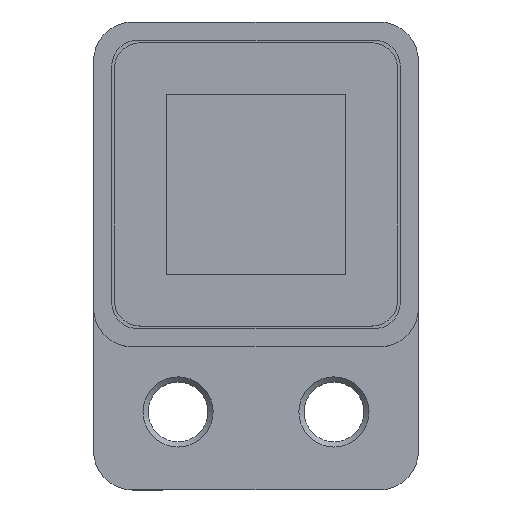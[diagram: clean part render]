
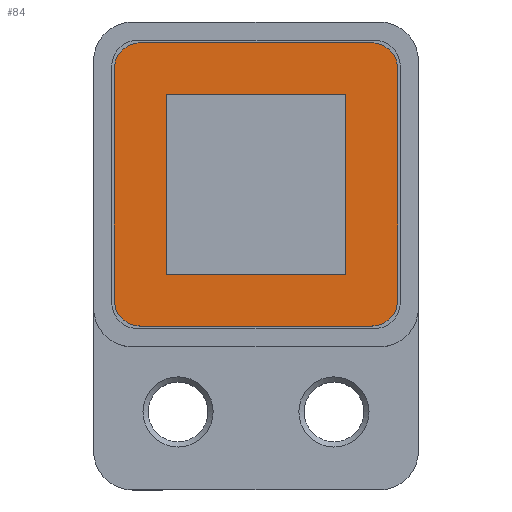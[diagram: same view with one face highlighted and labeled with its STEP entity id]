
A CAD part, top view. The second image highlights one B-rep face of the part: STEP entity #84.
In plain terms, the highlighted planar face has unit normal (0, 0, 1).
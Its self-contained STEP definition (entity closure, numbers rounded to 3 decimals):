
#84=ADVANCED_FACE('',(#148,#149),#125,.F.);
#125=PLANE('',#771);
#148=FACE_BOUND('',#168,.T.);
#149=FACE_BOUND('',#169,.T.);
#168=EDGE_LOOP('',(#254,#255,#256,#257,#258,#259,#260,#261));
#169=EDGE_LOOP('',(#262,#263,#264,#265));
#220=CIRCLE('',#767,1.);
#221=CIRCLE('',#768,1.);
#222=CIRCLE('',#769,1.);
#223=CIRCLE('',#770,1.);
#254=ORIENTED_EDGE('',*,*,#528,.F.);
#255=ORIENTED_EDGE('',*,*,#529,.T.);
#256=ORIENTED_EDGE('',*,*,#530,.F.);
#257=ORIENTED_EDGE('',*,*,#531,.T.);
#258=ORIENTED_EDGE('',*,*,#532,.F.);
#259=ORIENTED_EDGE('',*,*,#533,.T.);
#260=ORIENTED_EDGE('',*,*,#534,.F.);
#261=ORIENTED_EDGE('',*,*,#535,.T.);
#262=ORIENTED_EDGE('',*,*,#536,.F.);
#263=ORIENTED_EDGE('',*,*,#537,.F.);
#264=ORIENTED_EDGE('',*,*,#538,.F.);
#265=ORIENTED_EDGE('',*,*,#539,.F.);
#458=VERTEX_POINT('',#1064);
#459=VERTEX_POINT('',#1065);
#460=VERTEX_POINT('',#1067);
#461=VERTEX_POINT('',#1069);
#462=VERTEX_POINT('',#1071);
#463=VERTEX_POINT('',#1073);
#464=VERTEX_POINT('',#1075);
#465=VERTEX_POINT('',#1077);
#466=VERTEX_POINT('',#1080);
#467=VERTEX_POINT('',#1081);
#468=VERTEX_POINT('',#1083);
#469=VERTEX_POINT('',#1085);
#528=EDGE_CURVE('',#458,#459,#630,.T.);
#529=EDGE_CURVE('',#458,#460,#220,.T.);
#530=EDGE_CURVE('',#461,#460,#631,.T.);
#531=EDGE_CURVE('',#461,#462,#221,.T.);
#532=EDGE_CURVE('',#463,#462,#632,.T.);
#533=EDGE_CURVE('',#463,#464,#222,.T.);
#534=EDGE_CURVE('',#465,#464,#633,.T.);
#535=EDGE_CURVE('',#465,#459,#223,.T.);
#536=EDGE_CURVE('',#466,#467,#634,.T.);
#537=EDGE_CURVE('',#468,#466,#635,.T.);
#538=EDGE_CURVE('',#469,#468,#636,.T.);
#539=EDGE_CURVE('',#467,#469,#637,.T.);
#630=LINE('',#1063,#698);
#631=LINE('',#1068,#699);
#632=LINE('',#1072,#700);
#633=LINE('',#1076,#701);
#634=LINE('',#1079,#702);
#635=LINE('',#1082,#703);
#636=LINE('',#1084,#704);
#637=LINE('',#1086,#705);
#698=VECTOR('',#844,1.);
#699=VECTOR('',#847,1.);
#700=VECTOR('',#850,1.);
#701=VECTOR('',#853,1.);
#702=VECTOR('',#856,1.);
#703=VECTOR('',#857,1.);
#704=VECTOR('',#858,1.);
#705=VECTOR('',#859,1.);
#767=AXIS2_PLACEMENT_3D('',#1066,#845,#846);
#768=AXIS2_PLACEMENT_3D('',#1070,#848,#849);
#769=AXIS2_PLACEMENT_3D('',#1074,#851,#852);
#770=AXIS2_PLACEMENT_3D('',#1078,#854,#855);
#771=AXIS2_PLACEMENT_3D('',#1087,#860,#861);
#844=DIRECTION('',(1.,0.,0.));
#845=DIRECTION('',(0.,0.,1.));
#846=DIRECTION('',(0.,1.,0.));
#847=DIRECTION('',(0.,1.,0.));
#848=DIRECTION('',(0.,0.,1.));
#849=DIRECTION('',(0.,1.,0.));
#850=DIRECTION('',(-1.,0.,0.));
#851=DIRECTION('',(0.,0.,1.));
#852=DIRECTION('',(0.,1.,0.));
#853=DIRECTION('',(0.,-1.,0.));
#854=DIRECTION('',(0.,0.,1.));
#855=DIRECTION('',(0.,1.,0.));
#856=DIRECTION('',(0.,-1.,0.));
#857=DIRECTION('',(-1.,0.,0.));
#858=DIRECTION('',(0.,1.,0.));
#859=DIRECTION('',(1.,0.,0.));
#860=DIRECTION('',(0.,0.,-1.));
#861=DIRECTION('',(0.,1.,0.));
#1063=CARTESIAN_POINT('',(-2.3,20.5,3.7));
#1064=CARTESIAN_POINT('',(-1.3,20.5,3.7));
#1065=CARTESIAN_POINT('',(7.6,20.5,3.7));
#1066=CARTESIAN_POINT('',(-1.3,19.5,3.7));
#1067=CARTESIAN_POINT('',(-2.3,19.5,3.7));
#1068=CARTESIAN_POINT('',(-2.3,9.6,3.7));
#1069=CARTESIAN_POINT('',(-2.3,10.6,3.7));
#1070=CARTESIAN_POINT('',(-1.3,10.6,3.7));
#1071=CARTESIAN_POINT('',(-1.3,9.6,3.7));
#1072=CARTESIAN_POINT('',(8.6,9.6,3.7));
#1073=CARTESIAN_POINT('',(7.6,9.6,3.7));
#1074=CARTESIAN_POINT('',(7.6,10.6,3.7));
#1075=CARTESIAN_POINT('',(8.6,10.6,3.7));
#1076=CARTESIAN_POINT('',(8.6,20.5,3.7));
#1077=CARTESIAN_POINT('',(8.6,19.5,3.7));
#1078=CARTESIAN_POINT('',(7.6,19.5,3.7));
#1079=CARTESIAN_POINT('',(-0.3,18.5,3.7));
#1080=CARTESIAN_POINT('',(-0.3,18.5,3.7));
#1081=CARTESIAN_POINT('',(-0.3,11.6,3.7));
#1082=CARTESIAN_POINT('',(3.15,18.5,3.7));
#1083=CARTESIAN_POINT('',(6.6,18.5,3.7));
#1084=CARTESIAN_POINT('',(6.6,15.05,3.7));
#1085=CARTESIAN_POINT('',(6.6,11.6,3.7));
#1086=CARTESIAN_POINT('',(3.15,11.6,3.7));
#1087=CARTESIAN_POINT('',(-2.3,20.5,3.7));
